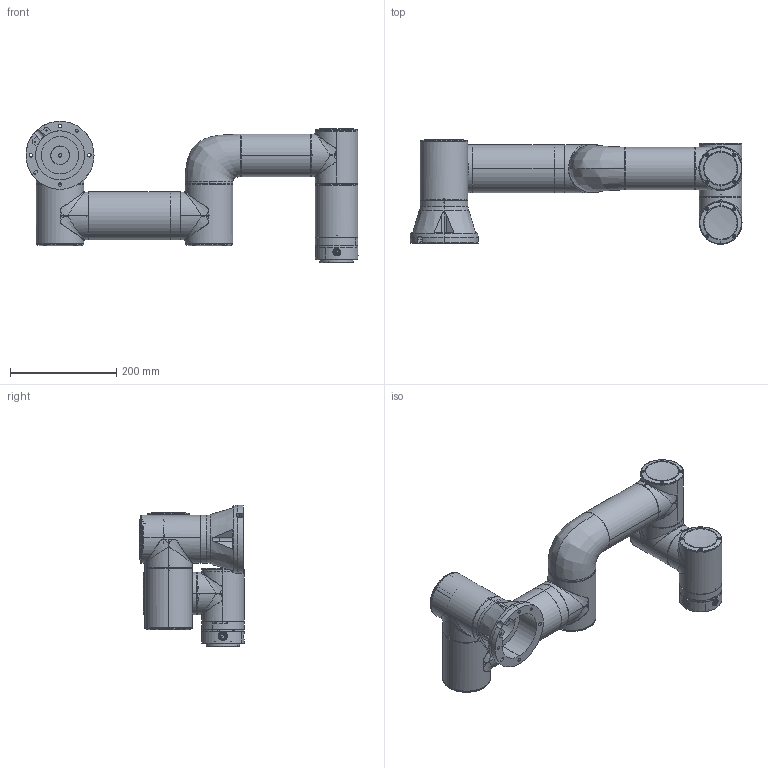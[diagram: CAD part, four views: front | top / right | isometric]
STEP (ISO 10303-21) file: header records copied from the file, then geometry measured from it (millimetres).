
FILE_DESCRIPTION (( 'STEP AP203' ), '1' );
FILE_NAME ('RD37-FR3-V6.0Èí¼þÄ£ÐÍ.STEP', '2024-11-14T06:53:07', ( '' ), ( '' ), 'SwSTEP 2.0', 'SolidWorks 2018', '' );
FILE_SCHEMA (( 'CONFIG_CONTROL_DESIGN' ));
Length unit declared in the file: millimetre
Products named in the file (7): RD37-FR3-V6.0-5; RD37-FR3-V6.0-4; RD37-FR3-V6.0-2; RD37-FR3-V6.0软件模型; RD37-FR3-V6.0-7; RD37-FR3-V6.0-3; RD37-FR3-V6.0-1
Assembly tree (7 placements, depth 2):
  RD37-FR3-V6.0软件模型
    RD37-FR3-V6.0-1
    RD37-FR3-V6.0-2
    RD37-FR3-V6.0-3
    RD37-FR3-V6.0-4
    RD37-FR3-V6.0-5  x2
    RD37-FR3-V6.0-7
Bounding box: 624.01 x 195.99 x 266 mm (x, y, z)
Volume: 7091829.6 mm3; surface area: 562590.8 mm2
Topology: 22 solids, 68 shells, 2265 faces, 5603 edges, 3628 vertices
Faces by surface type: plane 861, cylinder 750, bspline 341, cone 305, torus 6, sphere 2
Entity records: 135923 total; most frequent: CARTESIAN_POINT 89766, ORIENTED_EDGE 10090, DIRECTION 8282, EDGE_CURVE 5045, VERTEX_POINT 3301, AXIS2_PLACEMENT_3D 3182, EDGE_LOOP 2312, FACE_OUTER_BOUND 2059
